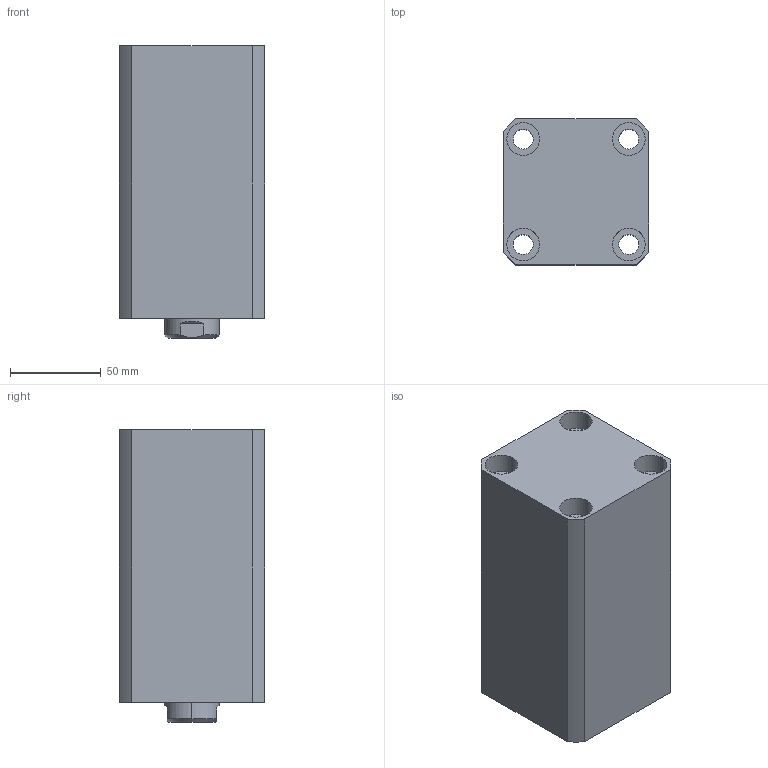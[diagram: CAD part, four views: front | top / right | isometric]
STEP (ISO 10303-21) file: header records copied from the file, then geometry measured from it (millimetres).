
FILE_DESCRIPTION (( 'STEP AP203' ), '1' );
FILE_NAME ('CHTB-SD50-90N.STEP', '2018-05-19T00:47:20', ( '' ), ( '' ), 'SwSTEP 2.0', 'SolidWorks 2015', '' );
FILE_SCHEMA (( 'CONFIG_CONTROL_DESIGN' ));
Length unit declared in the file: millimetre
Products named in the file (4): CHTM-SD50QG; 活塞杆SD50-90N; 掛极SD50-90N; CHTB-SD50-90N
Assembly tree (3 placements, depth 2):
  CHTB-SD50-90N
    掛极SD50-90N
    活塞杆SD50-90N
    CHTM-SD50QG
Bounding box: 80 x 80 x 161 mm (x, y, z)
Volume: 754962.8 mm3; surface area: 140793.7 mm2
Topology: 3 solids, 3 shells, 194 faces, 499 edges, 330 vertices
Faces by surface type: cylinder 104, plane 39, cone 21, torus 16, bspline 14
Entity records: 10789 total; most frequent: CARTESIAN_POINT 5840, ORIENTED_EDGE 986, DIRECTION 914, EDGE_CURVE 493, AXIS2_PLACEMENT_3D 383, VERTEX_POINT 330, EDGE_LOOP 233, CIRCLE 197
